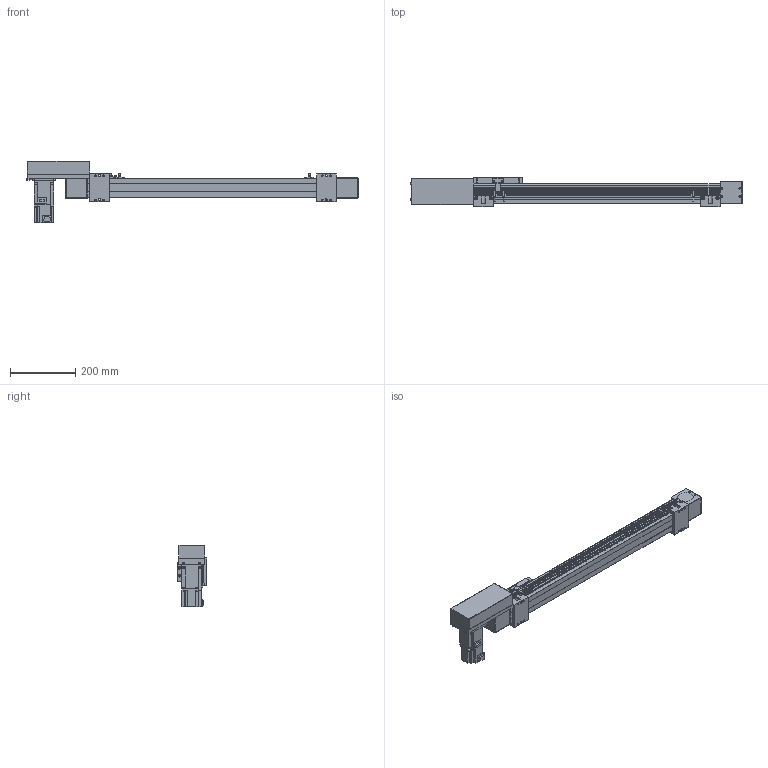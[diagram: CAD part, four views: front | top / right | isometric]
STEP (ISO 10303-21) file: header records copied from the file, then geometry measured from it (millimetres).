
FILE_DESCRIPTION(/* description */ ('STEP AP214'),/* implementation_level */ '2;1');
FILE_NAME(/* name */ 'SK60-P13-S600-R-T40-C1-N(0)',/* time_stamp */ '2023-04-06T04:25:59+02:00',/* author */ ('License CC BY-ND 4.0'),/* organization */ ('CADENAS'),/* preprocessor_version */ 'ST-DEVELOPER v19.3',/* originating_system */ 'PARTsolutions',/* authorisation */ ' ');
FILE_SCHEMA (('AUTOMOTIVE_DESIGN {1 0 10303 214 3 1 1}'));
Length unit declared in the file: millimetre
Products named in the file (10): SK60-P13-S600-R-T40-C1-N(0); PSC140-sensor; SK60-S450_seat; SK60-S450-BL-C1_slider; SK60_body3; SK60_body6; SK60-BL_body2; T40-p1; SK60-R_fb; SK60-S600-R-C1_body
Assembly tree (16 placements, depth 2):
  SK60-P13-S600-R-T40-C1-N(0)
    PSC140-sensor  x3
    SK60-S450_seat  x2
    SK60-S450-BL-C1_slider
    SK60_body3  x3
    SK60_body6  x2
    SK60-BL_body2  x2
    T40-p1
    SK60-R_fb
    SK60-S600-R-C1_body
Bounding box: 1020.5 x 90 x 189.7 mm (x, y, z)
Volume: 4293420.3 mm3; surface area: 564367.3 mm2
Topology: 16 solids, 16 shells, 810 faces, 2048 edges, 1349 vertices
Faces by surface type: plane 524, cylinder 262, cone 22, torus 2
Full cylindrical faces by diameter (mm): 2.8 x3, 3.3 x4, 4 x2, 4.5 x30, 4.6 x3, 4.917 x16, 5 x6, 5.478 x4, 5.5 x19, 6.5 x4, 7 x2, 8 x4, 8.5 x4, 9.988 x4, 10 x8, 14 x1, 47 x3, 50 x2
Entity records: 18655 total; most frequent: DIRECTION 3184, CARTESIAN_POINT 3150, ORIENTED_EDGE 2940, EDGE_CURVE 1470, AXIS2_PLACEMENT_3D 1068, LINE 1048, VECTOR 1048, VERTEX_POINT 1034
